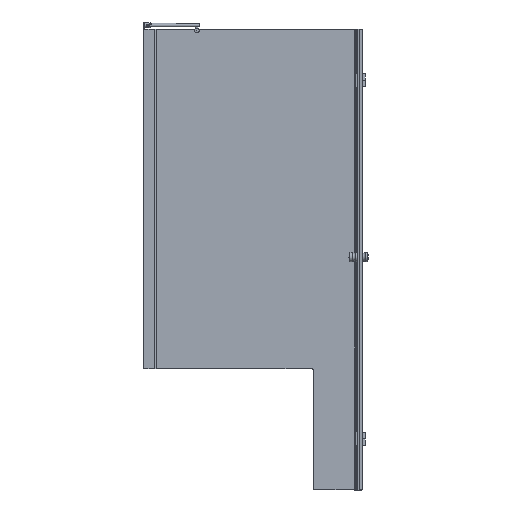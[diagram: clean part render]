
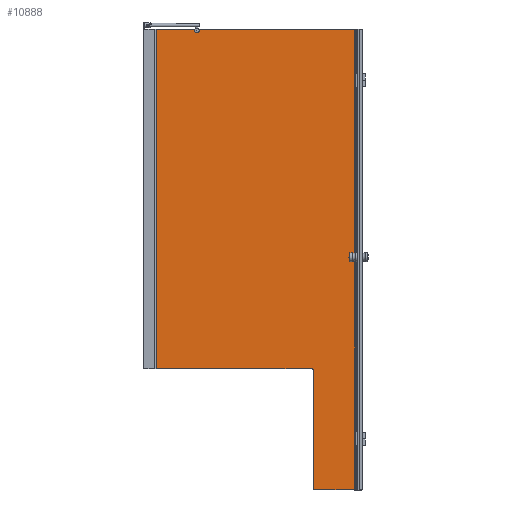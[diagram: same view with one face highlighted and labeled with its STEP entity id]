
A CAD part, left-side view. The second image highlights one B-rep face of the part: STEP entity #10888.
In plain terms, the highlighted planar face has unit normal (-1, 0, 0).
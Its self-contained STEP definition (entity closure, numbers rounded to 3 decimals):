
#186=LINE($,#15376,#1284);
#223=LINE($,#15501,#1321);
#581=LINE($,#16627,#1679);
#587=LINE($,#16656,#1685);
#652=LINE($,#16865,#1750);
#656=LINE($,#16874,#1754);
#1091=LINE($,#17981,#2189);
#1093=LINE($,#17986,#2191);
#1284=VECTOR($,#12250,641.666);
#1321=VECTOR($,#12341,158.474);
#1679=VECTOR($,#13251,1898.);
#1685=VECTOR($,#13269,1.419);
#1750=VECTOR($,#13468,639.);
#1754=VECTOR($,#13476,1400.);
#2189=VECTOR($,#14523,168.419);
#2191=VECTOR($,#14529,490.);
#3017=FACE_OUTER_BOUND($,#3661,.T.);
#3661=EDGE_LOOP($,(#8955,#8956,#8957,#8958,#8959,#8960,#8961,#8962,#8963,
#8964,#8965));
#3790=CIRCLE($,#11077,10.);
#3994=CIRCLE($,#11626,2.);
#4030=CIRCLE($,#11787,10.);
#4143=VERTEX_POINT($,#15149);
#4145=VERTEX_POINT($,#15153);
#4171=VERTEX_POINT($,#15375);
#4232=VERTEX_POINT($,#15499);
#4578=VERTEX_POINT($,#16626);
#4585=VERTEX_POINT($,#16655);
#4641=VERTEX_POINT($,#16862);
#4642=VERTEX_POINT($,#16864);
#4821=VERTEX_POINT($,#17483);
#4902=VERTEX_POINT($,#17980);
#4903=VERTEX_POINT($,#17984);
#5090=EDGE_CURVE($,#4143,#4145,#3790,.T.);
#5123=EDGE_CURVE($,#4171,#4143,#186,.T.);
#5186=EDGE_CURVE($,#4145,#4232,#223,.T.);
#5676=EDGE_CURVE($,#4578,#4171,#581,.T.);
#5687=EDGE_CURVE($,#4585,#4578,#587,.T.);
#5784=EDGE_CURVE($,#4642,#4641,#652,.T.);
#5789=EDGE_CURVE($,#4232,#4642,#656,.T.);
#6083=EDGE_CURVE($,#4821,#4585,#3994,.T.);
#6291=EDGE_CURVE($,#4821,#4902,#1091,.T.);
#6293=EDGE_CURVE($,#4903,#4641,#4030,.T.);
#6294=EDGE_CURVE($,#4903,#4902,#1093,.T.);
#8955=ORIENTED_EDGE($,*,*,#5090,.T.);
#8956=ORIENTED_EDGE($,*,*,#5186,.T.);
#8957=ORIENTED_EDGE($,*,*,#5789,.T.);
#8958=ORIENTED_EDGE($,*,*,#5784,.T.);
#8959=ORIENTED_EDGE($,*,*,#6293,.F.);
#8960=ORIENTED_EDGE($,*,*,#6294,.T.);
#8961=ORIENTED_EDGE($,*,*,#6291,.F.);
#8962=ORIENTED_EDGE($,*,*,#6083,.T.);
#8963=ORIENTED_EDGE($,*,*,#5687,.T.);
#8964=ORIENTED_EDGE($,*,*,#5676,.T.);
#8965=ORIENTED_EDGE($,*,*,#5123,.T.);
#9716=PLANE($,#11786);
#10888=ADVANCED_FACE($,(#3017),#9716,.T.);
#11077=AXIS2_PLACEMENT_3D($,#15155,#12186,#12187);
#11626=AXIS2_PLACEMENT_3D($,#17484,#14036,#14037);
#11786=AXIS2_PLACEMENT_3D($,#17983,#14525,#14526);
#11787=AXIS2_PLACEMENT_3D($,#17985,#14527,#14528);
#12186=DIRECTION('center_axis',(1.,0.,0.));
#12187=DIRECTION('ref_axis',(0.,0.597,0.802));
#12250=DIRECTION($,(0.,1.,0.));
#12341=DIRECTION($,(0.,1.,0.));
#13251=DIRECTION($,(0.,0.,1.));
#13269=DIRECTION($,(0.,1.,0.));
#13468=DIRECTION($,(0.,-1.,0.));
#13476=DIRECTION($,(0.,0.,-1.));
#14036=DIRECTION('center_axis',(1.,0.,0.));
#14037=DIRECTION('ref_axis',(0.,0.707,0.707));
#14523=DIRECTION($,(0.,1.,0.));
#14525=DIRECTION('center_axis',(-1.,0.,0.));
#14526=DIRECTION('ref_axis',(0.,1.,0.));
#14527=DIRECTION('center_axis',(-1.,0.,0.));
#14528=DIRECTION('ref_axis',(0.,-0.707,0.707));
#14529=DIRECTION($,(0.,0.,-1.));
#15149=CARTESIAN_POINT('',(1215.162,617.622,1385.944));
#15153=CARTESIAN_POINT('',(1215.162,635.482,1385.944));
#15155=CARTESIAN_POINT('Origin',(1215.162,626.552,1381.444));
#15375=CARTESIAN_POINT('',(1215.162,-24.044,1385.944));
#15376=CARTESIAN_POINT($,(1215.162,-29.044,1385.944));
#15499=CARTESIAN_POINT('',(1215.162,793.956,1385.944));
#15501=CARTESIAN_POINT($,(1215.162,-29.044,1385.944));
#16626=CARTESIAN_POINT('',(1215.162,-24.044,-512.056));
#16627=CARTESIAN_POINT($,(1215.162,-24.044,1385.944));
#16655=CARTESIAN_POINT('',(1215.162,-25.463,-512.056));
#16656=CARTESIAN_POINT($,(1215.162,-28.53,-512.056));
#16862=CARTESIAN_POINT('',(1215.162,154.956,-14.056));
#16864=CARTESIAN_POINT('',(1215.162,793.956,-14.056));
#16865=CARTESIAN_POINT($,(1215.162,57.956,-14.056));
#16874=CARTESIAN_POINT($,(1215.162,793.956,1385.944));
#17483=CARTESIAN_POINT('',(1215.162,-23.463,-514.056));
#17484=CARTESIAN_POINT('Origin',(1215.162,-25.463,-514.056));
#17980=CARTESIAN_POINT('',(1215.162,144.956,-514.056));
#17981=CARTESIAN_POINT($,(1215.162,-29.044,-514.056));
#17983=CARTESIAN_POINT('Origin',(1215.162,-29.044,1385.944));
#17984=CARTESIAN_POINT('',(1215.162,144.956,-24.056));
#17985=CARTESIAN_POINT('Origin',(1215.162,154.956,-24.056));
#17986=CARTESIAN_POINT($,(1215.162,144.956,435.944));
